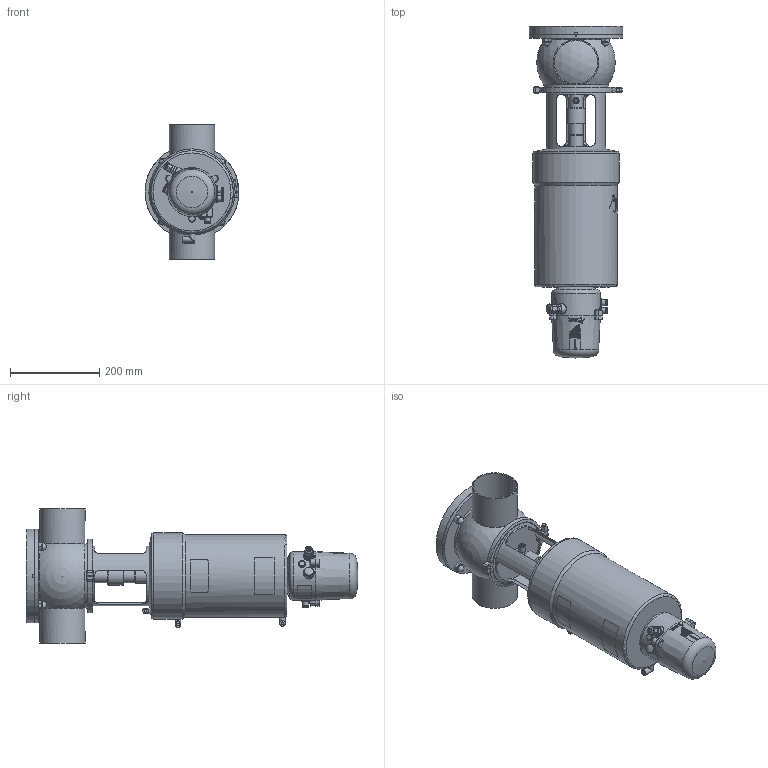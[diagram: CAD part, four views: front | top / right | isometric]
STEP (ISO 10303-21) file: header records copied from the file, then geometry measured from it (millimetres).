
FILE_DESCRIPTION (( 'STEP AP214' ), '1' );
FILE_NAME ('INNOVA T T W OD 4 & C-TOP S_10.252.16.0008.STEP', '2024-08-20T12:23:30', ( '' ), ( '' ), 'SwSTEP 2.0', 'SolidWorks 2023', '' );
FILE_SCHEMA (( 'AUTOMOTIVE_DESIGN' ));
Length unit declared in the file: millimetre
Products named in the file (7): 10.240.15.0001_DN 100; 10.252.15.0001_OD 4"; 10.248.15.0003_DIN 100 _ OD 4"; 10.426.15.0001_C-TOP S - 3 EV; INNOVA T T W OD 4 & C-TOP S_10.252.16.0008; 10.240.15.0007_OD 4"; 10.250.15.0002_Type T T3
Assembly tree (6 placements, depth 2):
  INNOVA T T W OD 4 & C-TOP S_10.252.16.0008
    10.240.15.0007_OD 4"
    10.248.15.0003_DIN 100 _ OD 4"
    10.252.15.0001_OD 4"
    10.250.15.0002_Type T T3
    10.240.15.0001_DN 100
    10.426.15.0001_C-TOP S - 3 EV
Bounding box: 210 x 743 x 300 mm (x, y, z)
Volume: 13673249.8 mm3; surface area: 821973.5 mm2
Topology: 6 solids, 6 shells, 1201 faces, 2900 edges, 1930 vertices
Faces by surface type: plane 417, cylinder 381, cone 196, bspline 162, torus 33, sphere 12
Full cylindrical faces by diameter (mm): 0.371 x17, 0.512 x16, 0.658 x16, 0.795 x16, 0.94 x15, 1.098 x15, 1.241 x13, 1.382 x13, 1.523 x11, 1.669 x10, 2.201 x1, 4.2 x2, 5 x1, 5.5 x2, 6 x5, 6.15 x3, 8 x3, 10 x1, 10.5 x3, 11 x4, 12 x1, 12.5 x9, 13 x6, 13.5 x2, 14 x2, 16 x4, 17 x3, 20 x2, 22 x2, 30.5 x2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
Entity records: 61637 total; most frequent: CARTESIAN_POINT 29337, ORIENTED_EDGE 4886, DIRECTION 4025, EDGE_CURVE 2443, VERTEX_POINT 1739, EDGE_LOOP 1696, AXIS2_PLACEMENT_3D 1632, FACE_OUTER_BOUND 1434
